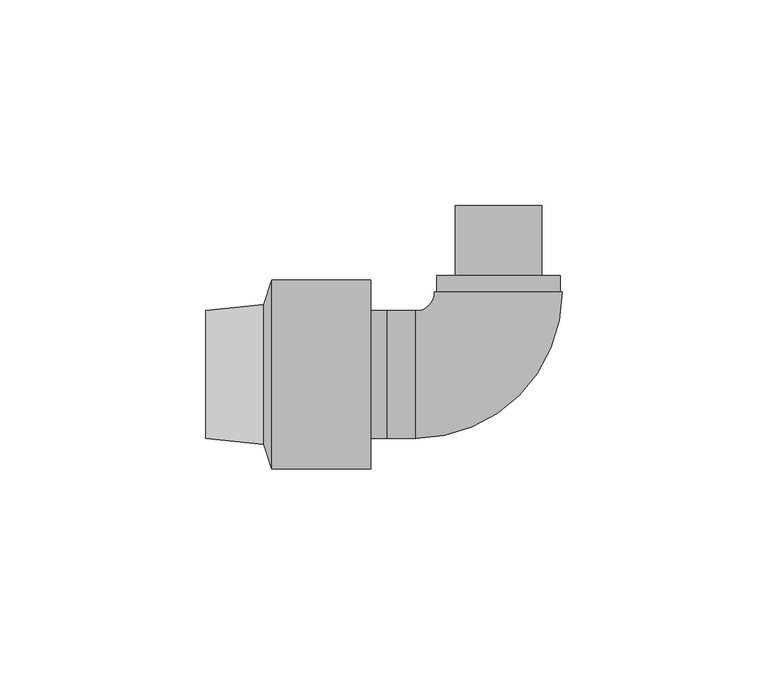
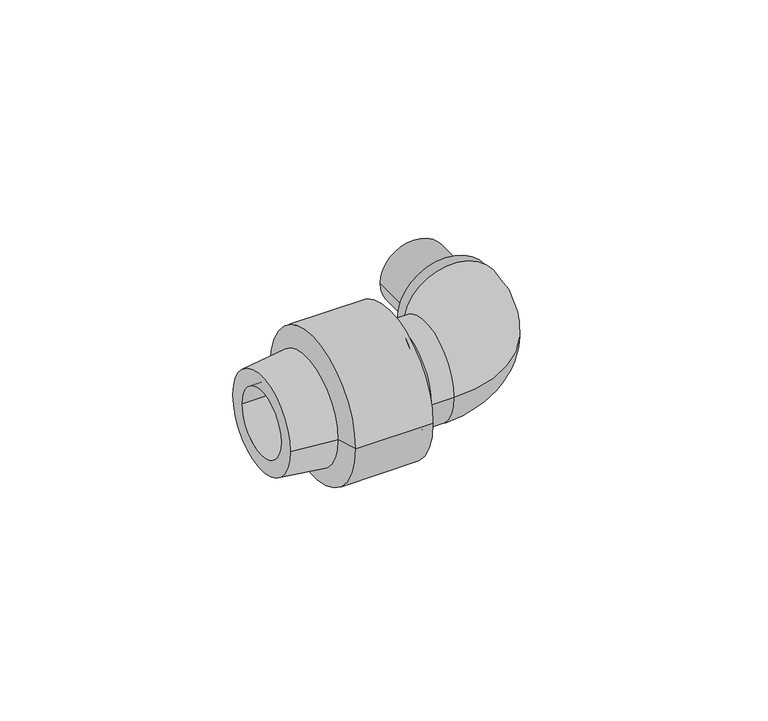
"""IFC4 building model written with IfcOpenShell, lengths in millimetres: pipe fitting geometry, Pipelife - PE - Kolano 90 proste z gwintem zewnętrznym : 20 x 1/2''."""

import ifcopenshell
import ifcopenshell.guid

model = None  # the IFC model being written
_history = None  # IfcOwnerHistory: only IFC2X3 demands one
_inside = {}  # id of a spatial element -> (the spatial element, [elements in it])
_under = {}  # id of a project, library or spatial element -> (it, [spatial elements below it])
_declared = {}  # id of a project -> (the project, [libraries it declares])
_typed = {}  # id of a type object -> (the type object, [elements of that type])
_made_of = {}  # id of a material, layer set ... -> (it, [elements and type objects made of it])


def new_model(schema):
    """Start an empty IFC model of exactly this schema.

    Asked for "IFC4X3", IfcOpenShell would pick the latest addendum, in which some entities
    have other attributes; the version numbers below select the first issue.
    IFC2X3 requires an IfcOwnerHistory on every rooted entity: one is made here for all.
    """
    global model, _history
    if schema == "IFC4X3":
        model = ifcopenshell.file(schema_version=(4, 3, 0, 0))
    else:
        model = ifcopenshell.file(schema=schema)
    _inside.clear()
    _under.clear()
    _declared.clear()
    _typed.clear()
    _made_of.clear()
    _history = None
    if model.schema == "IFC2X3":
        org = make("IfcOrganization", Name="unknown")
        user = make(
            "IfcPersonAndOrganization",
            ThePerson=make("IfcPerson", FamilyName="unknown"),
            TheOrganization=org,
        )
        app = make(
            "IfcApplication",
            ApplicationDeveloper=org,
            Version="unknown",
            ApplicationFullName="unknown",
            ApplicationIdentifier="unknown",
        )
        _history = make(
            "IfcOwnerHistory",
            OwningUser=user,
            OwningApplication=app,
            ChangeAction="ADDED",
            CreationDate=0,
        )
    return model


def make(cls, **values):
    """One entity of the class cls with the attributes given. An attribute that is None is left unset."""
    return model.create_entity(
        cls, **{name: value for name, value in values.items() if value is not None}
    )


def rooted(cls, **values):
    """An entity with a GlobalId (a new one), such as an element, a storey or a relation."""
    return make(cls, GlobalId=ifcopenshell.guid.new(), OwnerHistory=_history, **values)


def si_unit(unit_type, name, prefix=None):
    """IfcSIUnit, for example si_unit("LENGTHUNIT", "METRE", prefix="MILLI")."""
    return make("IfcSIUnit", UnitType=unit_type, Prefix=prefix, Name=name)


def assignment(units):
    """IfcUnitAssignment: the units of a project."""
    return None if units is None else make("IfcUnitAssignment", Units=units)


def point(xyz):
    """IfcCartesianPoint."""
    return None if xyz is None else make("IfcCartesianPoint", Coordinates=xyz)


def direction(xyz):
    """IfcDirection."""
    return None if xyz is None else make("IfcDirection", DirectionRatios=xyz)


def frame(location, z_axis=None, x_axis=None):
    """IfcAxis2Placement3D, a coordinate frame: its origin and axes. An axis left out is left unset."""
    return make(
        "IfcAxis2Placement3D",
        Location=point(location),
        Axis=direction(z_axis),
        RefDirection=direction(x_axis),
    )


def origin():
    """The frame at (0, 0, 0) with its axes left unset."""
    return frame((0.0, 0.0, 0.0))


def place(relative_to, where):
    """IfcLocalPlacement: puts the frame where relative to a parent placement (None: the world)."""
    return make(
        "IfcLocalPlacement", PlacementRelTo=relative_to, RelativePlacement=where
    )


def context(
    kind, dimensions, precision=None, world=None, true_north=None, identifier=None
):
    """IfcGeometricRepresentationContext, for example the 3D "Model" context."""
    return make(
        "IfcGeometricRepresentationContext",
        ContextIdentifier=identifier,
        ContextType=kind,
        CoordinateSpaceDimension=dimensions,
        Precision=precision,
        WorldCoordinateSystem=world,
        TrueNorth=true_north,
    )


def project(units=None, contexts=None):
    """IfcProject with its units and contexts."""
    return rooted(
        "IfcProject",
        Name="project",
        RepresentationContexts=contexts,
        UnitsInContext=assignment(units),
    )


def spatial(cls, under=None, at=None, **own):
    """A site, building, storey or space (cls), placed at a placement, below another one or the project."""
    s = rooted(cls, ObjectPlacement=at, **own)
    if under is not None:
        _under.setdefault(under.id(), (under, []))[1].append(s)
    return s


def polyline(points):
    """IfcPolyline through the points."""
    return make("IfcPolyline", Points=[point(p) for p in points])


def circle_curve(where, radius):
    """IfcCircle in the frame where."""
    return make("IfcCircle", Position=where, Radius=radius)


def ellipse_curve(where, semi_axis1, semi_axis2):
    """IfcEllipse in the frame where."""
    return make(
        "IfcEllipse", Position=where, SemiAxis1=semi_axis1, SemiAxis2=semi_axis2
    )


def trimmed(basis, trim1, trim2, sense, master):
    """IfcTrimmedCurve: the piece of a basis curve between two trims."""
    return make(
        "IfcTrimmedCurve",
        BasisCurve=basis,
        Trim1=trim1,
        Trim2=trim2,
        SenseAgreement=sense,
        MasterRepresentation=master,
    )


def shape(context_of_items, identifier, shape_type, items):
    """IfcShapeRepresentation: the items that make up one representation, for example the "Body"."""
    return make(
        "IfcShapeRepresentation",
        ContextOfItems=context_of_items,
        RepresentationIdentifier=identifier,
        RepresentationType=shape_type,
        Items=items,
    )


def source(mapping_origin, context_of_items, identifier, shape_type, items):
    """IfcRepresentationMap: a shape defined once, which mapped items show again and again."""
    return make(
        "IfcRepresentationMap",
        MappingOrigin=mapping_origin,
        MappedRepresentation=shape(context_of_items, identifier, shape_type, items),
    )


def transform(
    local_origin,
    x_axis=None,
    y_axis=None,
    z_axis=None,
    scale=None,
    scale2=None,
    scale3=None,
    uniform=True,
):
    """IfcCartesianTransformationOperator3D, or its non-uniform kind. x_axis, y_axis, z_axis: its Axis1, 2, 3."""
    if uniform:
        return make(
            "IfcCartesianTransformationOperator3D",
            Axis1=direction(x_axis),
            Axis2=direction(y_axis),
            LocalOrigin=point(local_origin),
            Scale=scale,
            Axis3=direction(z_axis),
        )
    return make(
        "IfcCartesianTransformationOperator3DnonUniform",
        Axis1=direction(x_axis),
        Axis2=direction(y_axis),
        LocalOrigin=point(local_origin),
        Scale=scale,
        Axis3=direction(z_axis),
        Scale2=scale2,
        Scale3=scale3,
    )


def mapped(mapping_source, mapping_target):
    """IfcMappedItem: shows the shape of a source again, moved by a transform."""
    return make(
        "IfcMappedItem", MappingSource=mapping_source, MappingTarget=mapping_target
    )


def made_of(thing, what):
    """Note that an element or type object is made of a material, layer set ...; save() writes the relation."""
    if what is not None:
        _made_of.setdefault(what.id(), (what, []))[1].append(thing)
    return thing


def element(
    cls,
    number,
    at=None,
    inside=None,
    cuts=None,
    type_object=None,
    material=None,
    context=None,
    identifier="Body",
    shape_type=None,
    held_by="IfcProductDefinitionShape",
    body=None,
    shapes=None,
    **own,
):
    """One element of the class cls, such as IfcWall. Its Tag is "e" and its number.

    at: its placement. inside: the storey or other place that contains it. cuts: it is an
    opening in that element (IfcRelVoidsElement). A single representation is given by context,
    identifier, shape_type and body (its items); several are given by shapes. held_by: the class
    of the entity that holds the representations. save() writes the other relations.
    """
    e = rooted(cls, Tag="e%d" % number, ObjectPlacement=at, **own)
    if body is not None:
        shapes = [shape(context, identifier, shape_type, body)]
    if shapes is not None:
        e.Representation = make(held_by, Representations=shapes)
    if inside is not None:
        _inside.setdefault(inside.id(), (inside, []))[1].append(e)
    if cuts is not None:
        rooted(
            "IfcRelVoidsElement", RelatingBuildingElement=cuts, RelatedOpeningElement=e
        )
    if type_object is not None:
        _typed.setdefault(type_object.id(), (type_object, []))[1].append(e)
    return made_of(e, material)


def aggregate(whole, parts):
    """IfcRelAggregates: a whole, such as a stair, and the parts it consists of."""
    return rooted("IfcRelAggregates", RelatingObject=whole, RelatedObjects=parts)


def save(model, path):
    """Write the relations noted so far, then the file.

    IfcRelAggregates (storeys below a building ...), IfcRelContainedInSpatialStructure (elements
    in a storey), IfcRelDefinesByType, IfcRelAssociatesMaterial and IfcRelDeclares: one each for
    every whole, place, type object, material and project.
    """
    for whole, parts in _under.values():
        aggregate(whole, parts)
    for where, things in _inside.values():
        rooted(
            "IfcRelContainedInSpatialStructure",
            RelatedElements=things,
            RelatingStructure=where,
        )
    for kind, things in _typed.values():
        rooted("IfcRelDefinesByType", RelatedObjects=things, RelatingType=kind)
    for what, things in _made_of.values():
        rooted("IfcRelAssociatesMaterial", RelatedObjects=things, RelatingMaterial=what)
    for by, libraries in _declared.values():
        rooted("IfcRelDeclares", RelatingContext=by, RelatedDefinitions=libraries)
    model.write(path)


def plane_surface(at):
    """IfcPlane: the flat surface through the origin of the frame at, square to its z axis."""
    return make("IfcPlane", Position=at)


def cylinder_surface(at, radius):
    """IfcCylindricalSurface: all points at the distance radius from the z axis of the frame at."""
    return make("IfcCylindricalSurface", Position=at, Radius=radius)


def revolved_surface(curve, axis_point, axis_direction):
    """IfcSurfaceOfRevolution: the curve turned about the line through axis_point along axis_direction."""
    return make(
        "IfcSurfaceOfRevolution",
        SweptCurve=make("IfcArbitraryOpenProfileDef", ProfileType="CURVE", Curve=curve),
        AxisPosition=make("IfcAxis1Placement", Location=point(axis_point), Axis=direction(axis_direction)),
    )


def advanced_brep(points, edges, surfaces, faces):
    """IfcAdvancedBrep: a solid bounded by faces that lie on surfaces and meet in shared edges.

    An edge is (start, end): straight between two places in points (the first is 0);
    or (start, end, curve); or (start, end, curve, False) where it runs against its curve.
    A face is (place in surfaces, loops), or (place, loops, False) where it looks against
    its surface's normal. A loop lists edges by number (the first is 1), with a minus sign
    where the edge is run from its end to its start. The first loop is the outer one.
    """
    corners = [point(p) for p in points]
    vertices = [make("IfcVertexPoint", VertexGeometry=c) for c in corners]
    made = []
    for start, end, *more in edges:
        made.append(
            make(
                "IfcEdgeCurve",
                EdgeStart=vertices[start],
                EdgeEnd=vertices[end],
                EdgeGeometry=more[0] if more else make("IfcPolyline", Points=[corners[start], corners[end]]),
                SameSense=more[1] if len(more) > 1 else True,
            )
        )
    hull = []
    for where, loops, *sense in faces:
        bounds = []
        for j, loop in enumerate(loops):
            ring = [make("IfcOrientedEdge", EdgeElement=made[abs(k) - 1], Orientation=k > 0) for k in loop]
            bounds.append(
                make(
                    "IfcFaceOuterBound" if j == 0 else "IfcFaceBound",
                    Bound=make("IfcEdgeLoop", EdgeList=ring),
                    Orientation=True,
                )
            )
        hull.append(make("IfcAdvancedFace", Bounds=bounds, FaceSurface=surfaces[where], SameSense=sense[0] if sense else True))
    return make("IfcAdvancedBrep", Outer=make("IfcClosedShell", CfsFaces=hull))


def pipe_fitting_6db44d3c(model_context):
    return source(origin(), model_context, "Body", "AdvancedBrep", [
        advanced_brep(
        [(-20.0, -10.5, 0.0), (-20.0, 10.5, 0.0), (-31.0, -10.5, 0.0), (-31.0, 10.5, 0.0), (15.5, 20.0, 0.0), (-15.5, 20.0, 0.0), (15.0, 20.0, 0.0), (-15.0, 20.0, 0.0), (-20.0, 15.5, 0.0), (-20.0, -15.5, 0.0), (-27.0, -15.5, 0.0), (-27.0, 15.5, 0.0), (-31.0, -15.5, 0.0), (-31.0, 15.5, 0.0), (-10.5, 41.0, 0.0), (10.5, 41.0, 0.0), (-10.5, 24.0, 0.0), (10.5, 24.0, 0.0), (-15.0, 24.0, 0.0), (15.0, 24.0, 0.0)],
        [
            (0, 1, circle_curve(frame((-20.0, 0.0, 0.0), z_axis=(-1.0, 0.0, 0.0), x_axis=(0.0, 1.0, 0.0)), 10.5)),
            (1, 0, circle_curve(frame((-20.0, 0.0, 0.0), z_axis=(-1.0, 0.0, 0.0), x_axis=(0.0, 1.0, 0.0)), 10.5)),
            (0, 2),
            (2, 3, circle_curve(frame((-31.0, 0.0, 0.0), z_axis=(-1.0, 0.0, 0.0), x_axis=(0.0, 1.0, 0.0)), 10.5)),
            (3, 1),
            (3, 2, circle_curve(frame((-31.0, 0.0, 0.0), z_axis=(-1.0, 0.0, 0.0), x_axis=(0.0, 1.0, 0.0)), 10.5)),
            (4, 5, circle_curve(frame((0.0, 20.0, 0.0), z_axis=(0.0, 1.0, 0.0), x_axis=(-1.0000000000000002, 0.0, 0.0)), 15.5)),
            (5, 4, circle_curve(frame((0.0, 20.0, 0.0), z_axis=(0.0, 1.0, 0.0), x_axis=(-1.0000000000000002, 0.0, 0.0)), 15.5)),
            (6, 7, circle_curve(frame((0.0, 20.0, 0.0), z_axis=(0.0, -1.0, 0.0), x_axis=(1.0, 0.0, 0.0)), 15.0)),
            (7, 6, circle_curve(frame((0.0, 20.0, 0.0), z_axis=(0.0, -1.0, 0.0), x_axis=(1.0, 0.0, 0.0)), 15.0)),
            (5, 8, circle_curve(frame((-20.0, 20.0, 0.0), z_axis=(0.0, 0.0, -1.0), x_axis=(0.0, -1.0, 0.0)), 4.5)),
            (8, 9, circle_curve(frame((-20.0, 0.0, 0.0), z_axis=(1.0000000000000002, 0.0, 0.0), x_axis=(0.0, 1.0, 0.0)), 15.5)),
            (9, 4, circle_curve(frame((-20.0, 20.0, 0.0), z_axis=(0.0, 0.0, 1.0), x_axis=(0.0, -1.0, 0.0)), 35.5)),
            (9, 8, circle_curve(frame((-20.0, 0.0, 0.0), z_axis=(1.0000000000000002, 0.0, 0.0), x_axis=(0.0, 1.0, 0.0)), 15.5)),
            (10, 9),
            (8, 11),
            (11, 10, circle_curve(frame((-27.0, 0.0, 0.0), z_axis=(1.0, 0.0, 0.0), x_axis=(0.0, 1.0, 0.0)), 15.5)),
            (10, 11, circle_curve(frame((-27.0, 0.0, 0.0), z_axis=(1.0, 0.0, 0.0), x_axis=(0.0, 1.0, 0.0)), 15.5)),
            (12, 13, circle_curve(frame((-31.0, 0.0, 0.0), z_axis=(-1.0, 0.0, 0.0), x_axis=(0.0, 1.0, 0.0)), 15.5)),
            (13, 12, circle_curve(frame((-31.0, 0.0, 0.0), z_axis=(-1.0, 0.0, 0.0), x_axis=(0.0, 1.0, 0.0)), 15.5)),
            (12, 10),
            (11, 13),
            (14, 15, circle_curve(frame((0.0, 41.0, 0.0), z_axis=(0.0, 1.0, 0.0), x_axis=(1.0, 0.0, 0.0)), 10.5)),
            (15, 14, circle_curve(frame((0.0, 41.0, 0.0), z_axis=(0.0, 1.0, 0.0), x_axis=(1.0, 0.0, 0.0)), 10.5)),
            (14, 16),
            (16, 17, circle_curve(frame((0.0, 24.0, 0.0), z_axis=(0.0, 1.0, 0.0), x_axis=(1.0, 0.0, 0.0)), 10.5)),
            (17, 15),
            (17, 16, circle_curve(frame((0.0, 24.0, 0.0), z_axis=(0.0, 1.0, 0.0), x_axis=(1.0, 0.0, 0.0)), 10.5)),
            (18, 19, circle_curve(frame((0.0, 24.0, 0.0), z_axis=(0.0, 1.0, 0.0), x_axis=(1.0, 0.0, 0.0)), 15.0)),
            (19, 18, circle_curve(frame((0.0, 24.0, 0.0), z_axis=(0.0, 1.0, 0.0), x_axis=(1.0, 0.0, 0.0)), 15.0)),
            (18, 7),
            (6, 19),
        ],
        [
            plane_surface(frame((-20.0, 0.0, 0.0), z_axis=(-1.0, 0.0, 0.0), x_axis=(0.0, 0.0, 1.0))),
            revolved_surface(polyline([(-31.0, 10.5, 0.0), (-20.0, 10.5, 0.0)]), (-71.0, 0.0, 0.0), (-1.0, 0.0, 0.0)),
            plane_surface(frame((0.0, 20.0, 0.0), z_axis=(0.0, 1.0, 0.0), x_axis=(0.0, 0.0, 1.0))),
            revolved_surface(trimmed(ellipse_curve(frame((-20.0, 0.0, 0.0), z_axis=(-1.0000000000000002, 0.0, 0.0), x_axis=(0.0, 1.0, 0.0)), 15.5, 15.5), [point((-20.0, -15.5, 0.0))], [point((-20.0, 15.5, 0.0))], True, "CARTESIAN"), (-20.0, 20.0, 0.0), (0.0, 0.0, 1.0000000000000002)),
            revolved_surface(trimmed(ellipse_curve(frame((-20.0, 0.0, 0.0), z_axis=(-1.0000000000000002, 0.0, 0.0), x_axis=(0.0, 1.0, 0.0)), 15.5, 15.5), [point((-20.0, 15.5, 0.0))], [point((-20.0, -15.5, 0.0))], True, "CARTESIAN"), (-20.0, 20.0, 0.0), (0.0, 0.0, 1.0000000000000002)),
            cylinder_surface(frame((-27.0, 0.0, 0.0), z_axis=(-1.0, 0.0, 0.0), x_axis=(0.0, 1.0, 0.0)), 15.5),
            plane_surface(frame((-31.0, 0.0, 0.0), z_axis=(-1.0, 0.0, 0.0), x_axis=(0.0, 0.0, 1.0))),
            cylinder_surface(frame((-31.0, 0.0, 0.0), z_axis=(-1.0, 0.0, 0.0), x_axis=(0.0, 1.0, 0.0)), 15.5),
            plane_surface(frame((0.0, 41.0, 0.0), z_axis=(0.0, 1.0, 0.0), x_axis=(0.0, 0.0, 1.0))),
            cylinder_surface(frame((0.0, 41.0, 0.0), z_axis=(0.0, 1.0, 0.0), x_axis=(1.0, 0.0, 0.0)), 10.5),
            plane_surface(frame((0.0, 24.0, 0.0), z_axis=(0.0, 1.0, 0.0), x_axis=(0.0, 0.0, 1.0))),
            cylinder_surface(frame((0.0, 24.0, 0.0), z_axis=(0.0, 1.0, 0.0), x_axis=(1.0, 0.0, 0.0)), 15.0),
        ],
        [
            (0, [[1, 2]]),
            (1, [[-1, 3, 4, 5]]),
            (1, [[-2, -5, 6, -3]]),
            (2, [[7, 8], [9, 10]]),
            (3, [[-8, 11, 12, 13]]),
            (4, [[-7, -13, 14, -11]]),
            (5, [[15, -12, 16, 17]]),
            (5, [[-15, 18, -16, -14]]),
            (6, [[19, 20], [-4, -6]]),
            (7, [[-19, 21, -17, 22]]),
            (7, [[-20, -22, -18, -21]]),
            (8, [[23, 24]]),
            (9, [[-23, 25, 26, 27]]),
            (9, [[-24, -27, 28, -25]]),
            (10, [[29, 30], [-26, -28]]),
            (11, [[-29, 31, -9, 32]]),
            (11, [[-30, -32, -10, -31]]),
        ],
    ),
        advanced_brep(
        [(-31.0, -23.0, 0.0), (-31.0, 23.0, 0.0), (-31.0, -10.5, 0.0), (-31.0, 10.5, 0.0), (-55.0, 23.0, 0.0), (-55.0, -23.0, 0.0), (-71.0, -10.5, 0.0), (-71.0, 10.5, 0.0), (-57.0, -17.0, 0.0), (-57.0, 17.0, 0.0), (-71.0, 15.5, 0.0), (-71.0, -15.5, 0.0)],
        [
            (0, 1, circle_curve(frame((-31.0, 0.0, 0.0), z_axis=(1.0, 0.0, 0.0), x_axis=(0.0, 1.0, 0.0)), 23.0)),
            (1, 0, circle_curve(frame((-31.0, 0.0, 0.0), z_axis=(1.0, 0.0, 0.0), x_axis=(0.0, 1.0, 0.0)), 23.0)),
            (2, 3, circle_curve(frame((-31.0, 0.0, 0.0), z_axis=(-1.0, 0.0, 0.0), x_axis=(0.0, 1.0, 0.0)), 10.5)),
            (3, 2, circle_curve(frame((-31.0, 0.0, 0.0), z_axis=(-1.0, 0.0, 0.0), x_axis=(0.0, 1.0, 0.0)), 10.5)),
            (1, 4),
            (4, 5, circle_curve(frame((-55.0, 0.0, 0.0), z_axis=(1.0, 0.0, 0.0), x_axis=(0.0, 1.0, 0.0)), 23.0)),
            (5, 0),
            (5, 4, circle_curve(frame((-55.0, 0.0, 0.0), z_axis=(1.0, 0.0, 0.0), x_axis=(0.0, 1.0, 0.0)), 23.0)),
            (2, 6),
            (6, 7, circle_curve(frame((-71.0, 0.0, 0.0), z_axis=(-1.0, 0.0, 0.0), x_axis=(0.0, 1.0, 0.0)), 10.5)),
            (7, 3),
            (7, 6, circle_curve(frame((-71.0, 0.0, 0.0), z_axis=(-1.0, 0.0, 0.0), x_axis=(0.0, 1.0, 0.0)), 10.5)),
            (5, 8),
            (8, 9, circle_curve(frame((-57.0, 0.0, 0.0), z_axis=(1.0, 0.0, 0.0), x_axis=(0.0, 1.0, 0.0)), 17.0)),
            (9, 4),
            (9, 8, circle_curve(frame((-57.0, 0.0, 0.0), z_axis=(1.0, 0.0, 0.0), x_axis=(0.0, -1.0, 0.0)), 17.0)),
            (10, 11, circle_curve(frame((-71.0, 0.0, 0.0), z_axis=(-1.0, 0.0, 0.0), x_axis=(0.0, 1.0, 0.0)), 15.5)),
            (11, 10, circle_curve(frame((-71.0, 0.0, 0.0), z_axis=(-1.0, 0.0, 0.0), x_axis=(0.0, -1.0, 0.0)), 15.5)),
            (10, 9),
            (8, 11),
        ],
        [
            plane_surface(frame((-31.0, 0.0, 0.0), z_axis=(1.0, 0.0, 0.0), x_axis=(0.0, 0.0, 1.0))),
            cylinder_surface(frame((-55.0, 0.0, 0.0), z_axis=(-1.0, 0.0, 0.0), x_axis=(0.0, 1.0, 0.0)), 23.0),
            revolved_surface(polyline([(-71.0, 10.5, 0.0), (-31.0, 10.5, 0.0)]), (-71.0, 0.0, 0.0), (-1.0, 0.0, 0.0)),
            revolved_surface(polyline([(-57.0, -17.00000002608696, 0.0), (-55.0, -23.0, 0.0)]), (-62.6666667, 0.0, 0.0), (1.0, 0.0, 0.0)),
            plane_surface(frame((-71.0, 0.0, 0.0), z_axis=(-1.0, 0.0, 0.0), x_axis=(0.0, 0.0, -1.0))),
            revolved_surface(polyline([(-71.0, 15.500000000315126, 0.0), (-57.0, 17.0, 0.0)]), (-215.6666667, 0.0, 0.0), (1.0, 0.0, 0.0)),
            revolved_surface(polyline([(-71.0, -15.500000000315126, 0.0), (-57.0, -17.0, 0.0)]), (-215.6666667, 0.0, 0.0), (1.0, 0.0, 0.0)),
        ],
        [
            (0, [[1, 2], [3, 4]]),
            (1, [[-2, 5, 6, 7]]),
            (1, [[-1, -7, 8, -5]]),
            (2, [[9, 10, 11, -3]]),
            (2, [[-9, -4, -11, 12]]),
            (3, [[13, 14, 15, -8]]),
            (3, [[-13, -6, -15, 16]]),
            (4, [[17, 18], [-10, -12]]),
            (5, [[-17, 19, -14, 20]]),
            (6, [[-18, -20, -16, -19]]),
        ],
    ),
    ])


if __name__ == "__main__":
    model = new_model("IFC4")
    model_context = context("Model", 3, world=origin())
    ifc_project = project(units=[si_unit("LENGTHUNIT", "METRE", prefix="MILLI")], contexts=[model_context])
    site = spatial("IfcSite", under=ifc_project)
    building = spatial("IfcBuilding", under=site)
    placement = place(None, origin())
    pipe_fitting_shape = pipe_fitting_6db44d3c(model_context)
    element("IfcPipeFitting", 1, ObjectType="Pipelife - PE - Kolano 90 proste z gwintem zewnętrznym : 20 x 1/2''", at=placement, inside=building, context=model_context, shape_type="MappedRepresentation", body=[
        mapped(pipe_fitting_shape, transform((0.0, 0.0, 0.0), x_axis=(1.0, 0.0, 0.0), y_axis=(0.0, 1.0, 0.0), z_axis=(0.0, 0.0, 1.0))),
    ])
    save(model, "model.ifc")
